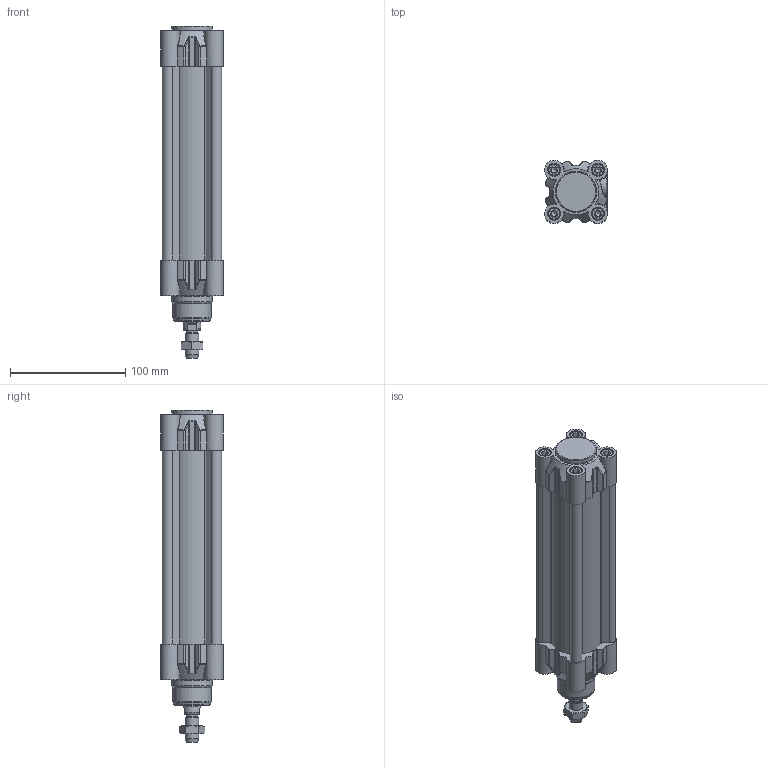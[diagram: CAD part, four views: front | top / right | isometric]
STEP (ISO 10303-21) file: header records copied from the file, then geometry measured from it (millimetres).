
FILE_DESCRIPTION(/* description */ ('Unknown'),/* implementation_level */ '2;1');
FILE_NAME(/* name */ 'HIF 40_125',/* time_stamp */ '2024-08-09T14:32:47+02:00',/* author */ ('Unknown'),/* organization */ ('Unknown'),/* preprocessor_version */ 'ST-DEVELOPER v16.7',/* originating_system */ 'Solid Edge',/* authorisation */ 'Unknown');
FILE_SCHEMA (('AUTOMOTIVE_DESIGN {1 0 10303 214 3 1 1}'));
Length unit declared in the file: millimetre
Products named in the file (6): HIF 40_125; Kit_2; Kit_1; Profilrohr 40_125; Mutter; Kolbenstange 40_125
Assembly tree (5 placements, depth 2):
  HIF 40_125
    Kit_2
    Kit_1
    Profilrohr 40_125
    Mutter
    Kolbenstange 40_125
Bounding box: 54.5 x 54.5 x 288 mm (x, y, z)
Volume: 359564.9 mm3; surface area: 158391.6 mm2
Topology: 5 solids, 10 shells, 922 faces, 2342 edges, 1525 vertices
Faces by surface type: plane 367, cylinder 300, cone 89, torus 74, bspline 74, sphere 18
Full cylindrical faces by diameter (mm): 2.5 x2, 4.917 x16, 6 x8, 6.2 x8, 7 x2, 9.9 x2, 10 x13, 10.3 x8, 10.647 x1, 11.44 x2, 11.445 x2, 12 x1, 15.5 x1, 16 x2, 16.6 x1, 16.8 x1, 16.847 x1, 20 x1, 26 x2, 33 x1, 35 x2, 40 x2
Entity records: 35939 total; most frequent: CARTESIAN_POINT 8998, ORIENTED_EDGE 4544, DIRECTION 4322, EDGE_CURVE 2272, AXIS2_PLACEMENT_3D 1647, VERTEX_POINT 1507, FACE_BOUND 1081, EDGE_LOOP 1073
